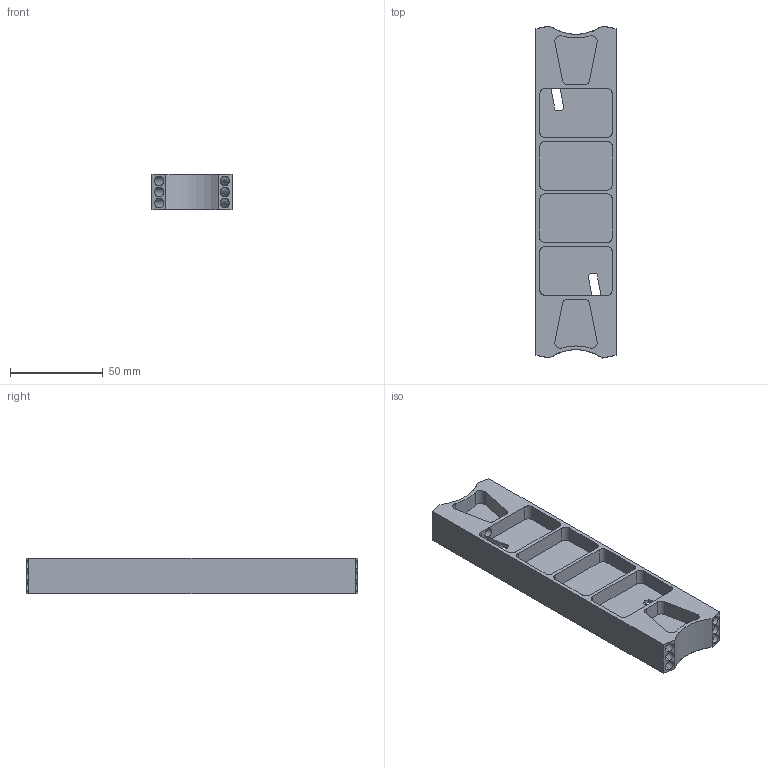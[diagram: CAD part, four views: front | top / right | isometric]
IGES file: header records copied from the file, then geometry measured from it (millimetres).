
Global section: file name: 0393-18-81; native system: VariCAD 2020-1.02; preprocessor: 5.3; author: LVVS3874K00E; organization: Elphe, Inc.; date: 20260812.105353; units: millimetre
Bounding box: 43.16 x 178.88 x 19 mm (x, y, z)
Surface area: 40868.1 mm2 (no closed solid volume)
Topology: 0 solids, 0 shells, 158 faces, 872 edges, 856 vertices
Faces by surface type: revolution 94, bspline 64
